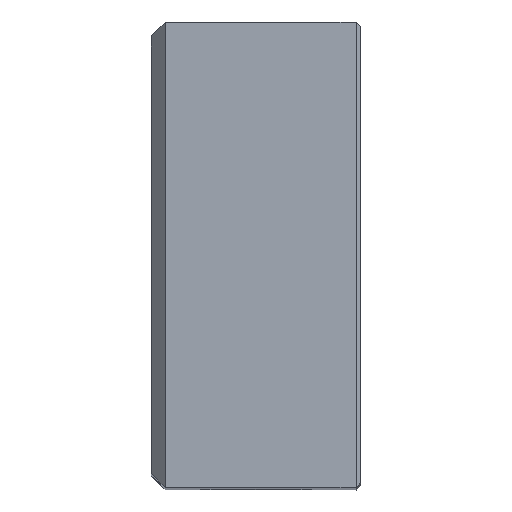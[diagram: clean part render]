
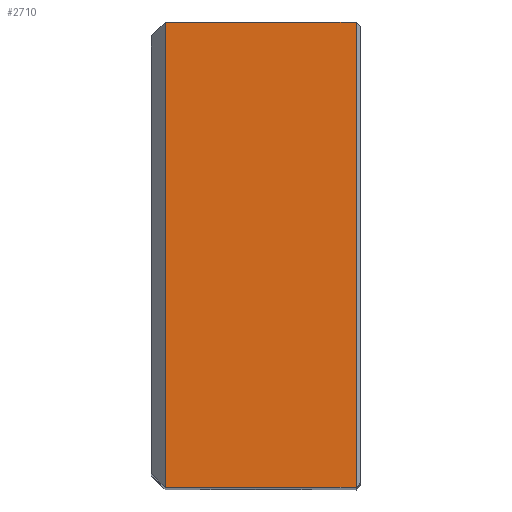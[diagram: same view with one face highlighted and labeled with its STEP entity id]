
A CAD part, top view. The second image highlights one B-rep face of the part: STEP entity #2710.
In plain terms, the highlighted planar face has unit normal (0, 0, 1).
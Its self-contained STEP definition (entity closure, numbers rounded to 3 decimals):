
#227=VERTEX_POINT(' ',#228);
#228=CARTESIAN_POINT('',(44.,-50.,0.));
#237=VERTEX_POINT(' ',#238);
#238=CARTESIAN_POINT('',(44.,50.,0.));
#271=VERTEX_POINT(' ',#272);
#272=CARTESIAN_POINT('',(3.,-50.,0.));
#279=VERTEX_POINT(' ',#280);
#280=CARTESIAN_POINT('',(3.,50.,0.));
#1247=LINE('',#1248,#1249);
#1248=CARTESIAN_POINT('',(44.,55.657,0.));
#1249=VECTOR('',#1250,1.);
#1250=DIRECTION('',(0.,-1.,0.));
#1251=EDGE_CURVE(' ',#237,#227,#1247,.T.);
#1411=LINE('',#1412,#1413);
#1412=CARTESIAN_POINT('',(45.12,-50.,0.));
#1413=VECTOR('',#1414,1.);
#1414=DIRECTION('',(-1.,0.,0.));
#1415=EDGE_CURVE(' ',#227,#271,#1411,.T.);
#1450=LINE('',#1451,#1452);
#1451=CARTESIAN_POINT('',(3.,-63.971,0.));
#1452=VECTOR('',#1453,1.);
#1453=DIRECTION('',(0.,1.,0.));
#1454=EDGE_CURVE(' ',#271,#279,#1450,.T.);
#1455=LINE('',#1456,#1457);
#1456=CARTESIAN_POINT('',(45.12,50.,0.));
#1457=VECTOR('',#1458,1.);
#1458=DIRECTION('',(-1.,0.,0.));
#1459=EDGE_CURVE(' ',#237,#279,#1455,.T.);
#2699=ORIENTED_EDGE('',*,*,#1454,.F.);
#2700=ORIENTED_EDGE('',*,*,#1415,.F.);
#2701=ORIENTED_EDGE('',*,*,#1251,.F.);
#2702=ORIENTED_EDGE('',*,*,#1459,.T.);
#2703=EDGE_LOOP('',(#2699,#2700,#2701,#2702));
#2704=FACE_OUTER_BOUND('',#2703,.T.);
#2705=PLANE('',#2706);
#2706=AXIS2_PLACEMENT_3D('',#2707,#2708,#2709);
#2707=CARTESIAN_POINT('',(0.,-50.,0.));
#2708=DIRECTION('',(0.,0.,1.));
#2709=DIRECTION('',(0.,1.,0.));
#2710=ADVANCED_FACE('',(#2704),#2705,.T.);
